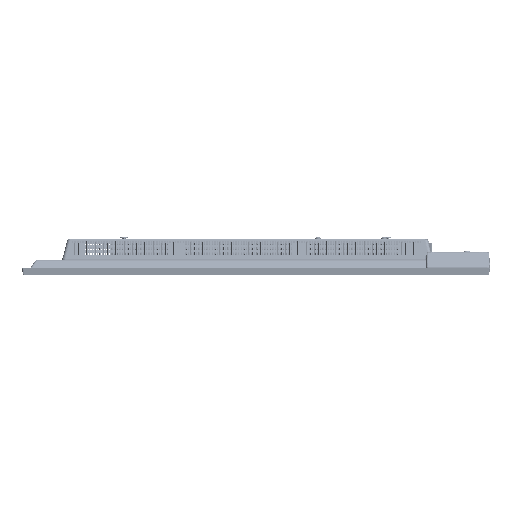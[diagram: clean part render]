
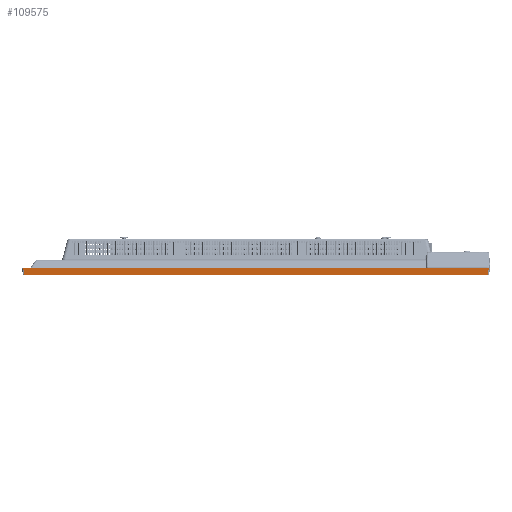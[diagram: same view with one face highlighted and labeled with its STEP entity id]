
A CAD part, left-side view. The second image highlights one B-rep face of the part: STEP entity #109575.
In plain terms, the highlighted planar face has unit normal (-0.993, 0, -0.122).
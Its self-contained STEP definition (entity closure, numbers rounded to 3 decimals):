
#86039=PLANE('',#761384);
#109575=ADVANCED_FACE('',(#151872),#86039,.T.);
#151872=FACE_OUTER_BOUND('',#186705,.T.);
#186705=EDGE_LOOP('',(#244819,#244820,#244821,#244822));
#244819=ORIENTED_EDGE('',*,*,#516624,.T.);
#244820=ORIENTED_EDGE('',*,*,#516390,.T.);
#244821=ORIENTED_EDGE('',*,*,#516625,.T.);
#244822=ORIENTED_EDGE('',*,*,#516626,.T.);
#449124=VERTEX_POINT('',#993612);
#449126=VERTEX_POINT('',#993629);
#449255=VERTEX_POINT('',#994825);
#449256=VERTEX_POINT('',#994827);
#516390=EDGE_CURVE('',#449124,#449126,#618464,.T.);
#516624=EDGE_CURVE('',#449255,#449124,#618611,.T.);
#516625=EDGE_CURVE('',#449126,#449256,#618612,.T.);
#516626=EDGE_CURVE('',#449256,#449255,#618613,.T.);
#618464=LINE('',#993630,#690395);
#618611=LINE('',#994824,#690565);
#618612=LINE('',#994826,#690566);
#618613=LINE('',#994828,#690567);
#690395=VECTOR('',#816087,1.);
#690565=VECTOR('',#816439,1.);
#690566=VECTOR('',#816440,1.);
#690567=VECTOR('',#816441,1.);
#761384=AXIS2_PLACEMENT_3D('',#994829,#816442,#816443);
#816087=DIRECTION('',(0.,-1.,0.));
#816439=DIRECTION('',(0.121,-0.121,-0.985));
#816440=DIRECTION('',(-0.121,-0.121,0.985));
#816441=DIRECTION('',(0.,1.,0.));
#816442=DIRECTION('',(-0.993,0.,-0.122));
#816443=DIRECTION('',(0.,1.,0.));
#993612=CARTESIAN_POINT('',(-617.382,350.797,-3.904));
#993629=CARTESIAN_POINT('',(-617.382,-352.497,-3.904));
#993630=CARTESIAN_POINT('',(-617.382,-356.047,-3.904));
#994824=CARTESIAN_POINT('',(-608.336,341.751,-77.573));
#994825=CARTESIAN_POINT('',(-618.639,352.054,6.333));
#994826=CARTESIAN_POINT('',(-618.737,-353.852,7.135));
#994827=CARTESIAN_POINT('',(-618.639,-353.754,6.333));
#994828=CARTESIAN_POINT('',(-618.639,553.58,6.333));
#994829=CARTESIAN_POINT('',(-618.7,-356.047,6.833));
